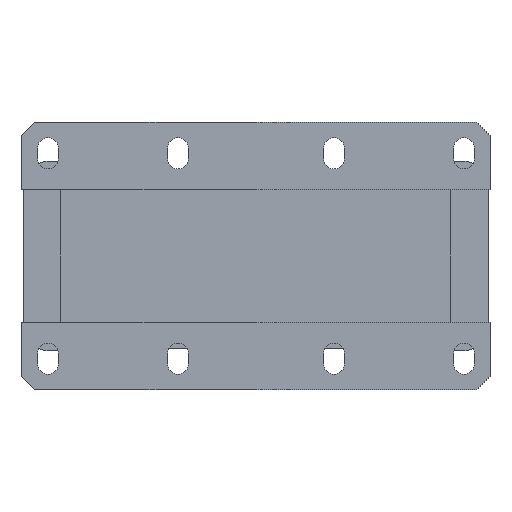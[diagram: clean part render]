
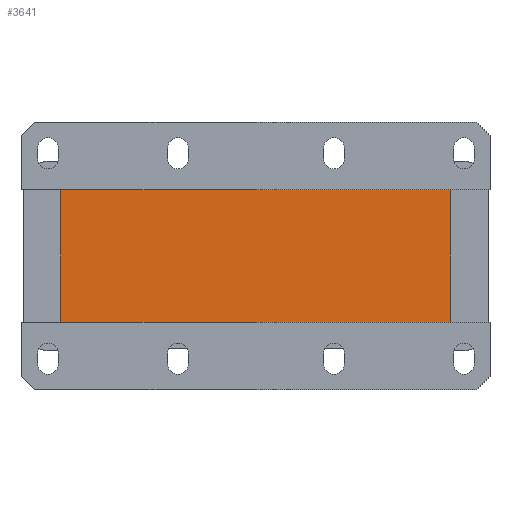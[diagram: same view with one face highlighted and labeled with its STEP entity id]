
A CAD part, front view. The second image highlights one B-rep face of the part: STEP entity #3641.
In plain terms, the highlighted planar face has unit normal (0, -1, 0).
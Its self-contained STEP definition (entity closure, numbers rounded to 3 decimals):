
#315=FACE_OUTER_BOUND('',#543,.T.);
#543=EDGE_LOOP('',(#2705,#2706,#2707,#2708));
#819=LINE('',#5574,#1221);
#823=LINE('',#5582,#1225);
#826=LINE('',#5588,#1228);
#829=LINE('',#5593,#1231);
#1221=VECTOR('',#4474,10.);
#1225=VECTOR('',#4480,10.);
#1228=VECTOR('',#4485,10.);
#1231=VECTOR('',#4490,10.);
#1603=VERTEX_POINT('',#5572);
#1604=VERTEX_POINT('',#5573);
#1607=VERTEX_POINT('',#5581);
#1609=VERTEX_POINT('',#5587);
#2003=EDGE_CURVE('',#1603,#1604,#819,.T.);
#2007=EDGE_CURVE('',#1604,#1607,#823,.T.);
#2010=EDGE_CURVE('',#1607,#1609,#826,.T.);
#2013=EDGE_CURVE('',#1609,#1603,#829,.T.);
#2705=ORIENTED_EDGE('',*,*,#2013,.T.);
#2706=ORIENTED_EDGE('',*,*,#2003,.T.);
#2707=ORIENTED_EDGE('',*,*,#2007,.T.);
#2708=ORIENTED_EDGE('',*,*,#2010,.T.);
#3481=PLANE('',#3922);
#3641=ADVANCED_FACE('',(#315),#3481,.T.);
#3922=AXIS2_PLACEMENT_3D('',#5595,#4492,#4493);
#4474=DIRECTION('',(0.,0.,1.));
#4480=DIRECTION('',(-1.,0.,0.));
#4485=DIRECTION('',(0.,0.,-1.));
#4490=DIRECTION('',(1.,0.,0.));
#4492=DIRECTION('center_axis',(0.,-1.,0.));
#4493=DIRECTION('ref_axis',(0.,0.,-1.));
#5572=CARTESIAN_POINT('',(75.,2.,-25.5));
#5573=CARTESIAN_POINT('',(75.,2.,25.5));
#5574=CARTESIAN_POINT('',(75.,2.,-25.5));
#5581=CARTESIAN_POINT('',(-75.,2.,25.5));
#5582=CARTESIAN_POINT('',(75.,2.,25.5));
#5587=CARTESIAN_POINT('',(-75.,2.,-25.5));
#5588=CARTESIAN_POINT('',(-75.,2.,25.5));
#5593=CARTESIAN_POINT('',(-75.,2.,-25.5));
#5595=CARTESIAN_POINT('Origin',(0.,2.,0.));
